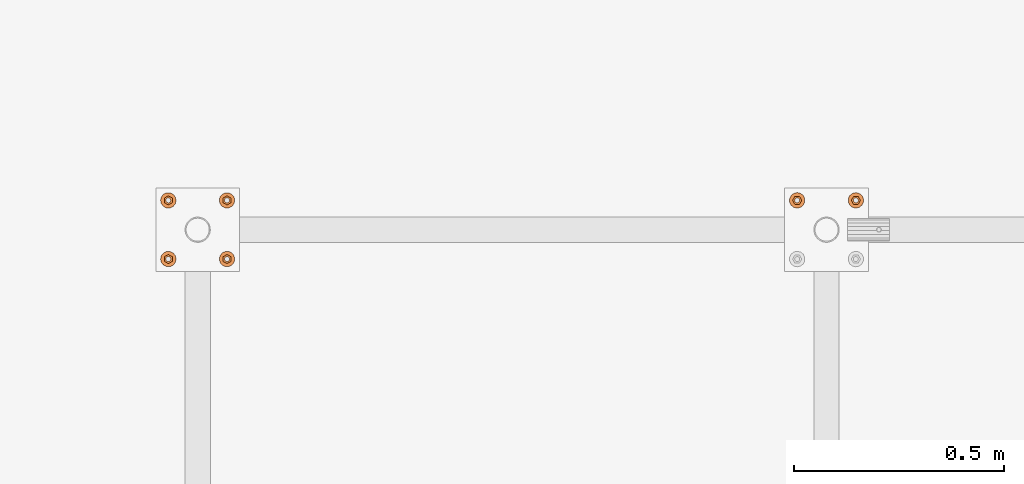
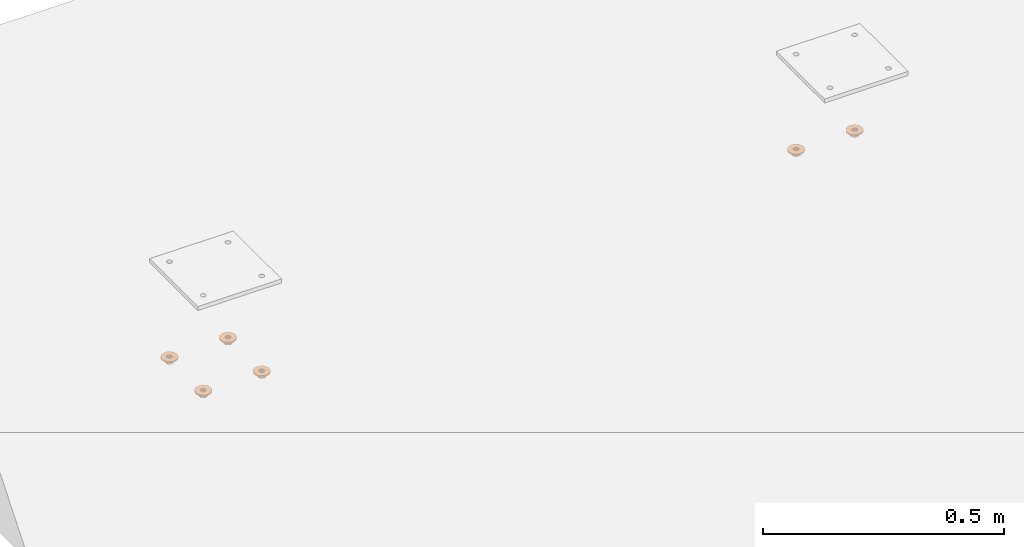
# One storey, part 23 of 30: 12 proxies.
"""IFC2X3 building model written with IfcOpenShell, lengths in millimetres."""

from ifc_helpers import new_model, entity, si_unit, converted_unit, origin_with_axes, place, context, project, spatial, faceted_brep, material, element, save


model = new_model("IFC2X3")

# Units and contexts
model_context = context("Model", 3, precision=1e-09, world=origin_with_axes())
ifc_project = project(units=[si_unit("LENGTHUNIT", "METRE", prefix="MILLI"), si_unit("AREAUNIT", "SQUARE_METRE"), si_unit("VOLUMEUNIT", "CUBIC_METRE"), converted_unit("PLANEANGLEUNIT", "DEGREE", entity("IfcPlaneAngleMeasure", 0.01745329), si_unit("PLANEANGLEUNIT", "RADIAN"), dimensions=[0, 0, 0, 0, 0, 0, 0])], contexts=[model_context])

# Site, building, storey
site_placement = place(None, origin_with_axes())
site = spatial("IfcSite", under=ifc_project, at=site_placement, Name="M?nsinger Stra?e, 81477 M?nchen", CompositionType="ELEMENT")
building_placement = place(site_placement, origin_with_axes())
building = spatial("IfcBuilding", under=site, at=building_placement, Name="Struktur 1", CompositionType="ELEMENT")
storey_placement = place(building_placement, origin_with_axes())
storey = spatial("IfcBuildingStorey", under=building, at=storey_placement, Name="Default Storey", CompositionType="ELEMENT", Elevation=0.0)

# Proxies
ifc_material = material(Name="Kein")
proxy_1_placement = place(None, origin_with_axes())
element("IfcBuildingElementProxy", 1, at=proxy_1_placement, inside=storey, material=ifc_material, ObjectType="-", context=model_context, shape_type="Brep", body=[
    faceted_brep([(1324.780556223, 4546.799376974, 6512.0), (1324.780556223, 4546.799376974, 6515.0), (1319.647193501, 4553.236410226, 6515.0), (1319.647193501, 4553.236410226, 6512.0), (1332.198480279, 4543.227093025, 6515.0), (1340.431754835, 4543.227093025, 6515.0), (1347.849678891, 4546.799376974, 6515.0), (1352.983041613, 4553.236410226, 6515.0), (1354.815117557, 4561.2632594, 6515.0), (1352.983041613, 4569.290108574, 6515.0), (1347.849678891, 4575.727141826, 6515.0), (1340.431754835, 4579.299425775, 6515.0), (1332.198480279, 4579.299425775, 6515.0), (1324.780556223, 4575.727141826, 6515.0), (1319.647193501, 4569.290108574, 6515.0), (1317.815117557, 4561.2632594, 6515.0), (1333.065117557, 4555.634094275, 6515.0), (1330.685952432, 4558.0132594, 6515.0), (1329.815117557, 4561.2632594, 6515.0), (1330.685952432, 4564.5132594, 6515.0), (1333.065117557, 4566.892424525, 6515.0), (1336.315117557, 4567.7632594, 6515.0), (1339.565117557, 4566.892424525, 6515.0), (1341.944282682, 4564.5132594, 6515.0), (1342.815117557, 4561.2632594, 6515.0), (1341.944282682, 4558.0132594, 6515.0), (1339.565117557, 4555.634094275, 6515.0), (1336.315117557, 4554.7632594, 6515.0), (1317.815117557, 4561.2632594, 6512.0), (1319.647193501, 4569.290108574, 6512.0), (1324.780556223, 4575.727141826, 6512.0), (1332.198480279, 4579.299425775, 6512.0), (1340.431754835, 4579.299425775, 6512.0), (1347.849678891, 4575.727141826, 6512.0), (1352.983041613, 4569.290108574, 6512.0), (1354.815117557, 4561.2632594, 6512.0), (1352.983041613, 4553.236410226, 6512.0), (1347.849678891, 4546.799376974, 6512.0), (1340.431754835, 4543.227093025, 6512.0), (1332.198480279, 4543.227093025, 6512.0), (1329.815117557, 4561.2632594, 6512.0), (1330.685952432, 4558.0132594, 6512.0), (1333.065117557, 4555.634094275, 6512.0), (1336.315117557, 4554.7632594, 6512.0), (1339.565117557, 4555.634094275, 6512.0), (1341.944282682, 4558.0132594, 6512.0), (1342.815117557, 4561.2632594, 6512.0), (1341.944282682, 4564.5132594, 6512.0), (1339.565117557, 4566.892424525, 6512.0), (1336.315117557, 4567.7632594, 6512.0), (1333.065117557, 4566.892424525, 6512.0), (1330.685952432, 4564.5132594, 6512.0)], [[[0, 1, 2, 3]], [[4, 5, 6, 7, 8, 9, 10, 11, 12, 13, 14, 15, 2, 1], [16, 17, 18, 19, 20, 21, 22, 23, 24, 25, 26, 27]], [[28, 29, 30, 31, 32, 33, 34, 35, 36, 37, 38, 39, 0, 3], [40, 41, 42, 43, 44, 45, 46, 47, 48, 49, 50, 51]], [[1, 0, 39, 4]], [[41, 17, 16, 42]], [[17, 41, 40, 18]], [[3, 2, 15, 28]], [[4, 39, 38, 5]], [[42, 16, 27, 43]], [[18, 40, 51, 19]], [[28, 15, 14, 29]], [[5, 38, 37, 6]], [[43, 27, 26, 44]], [[19, 51, 50, 20]], [[29, 14, 13, 30]], [[6, 37, 36, 7]], [[44, 26, 25, 45]], [[20, 50, 49, 21]], [[30, 13, 12, 31]], [[7, 36, 35, 8]], [[45, 25, 24, 46]], [[48, 22, 21, 49]], [[31, 12, 11, 32]], [[23, 47, 46, 24]], [[22, 48, 47, 23]], [[8, 35, 34, 9]], [[32, 11, 10, 33]], [[9, 34, 33, 10]]]),
])
proxy_2_placement = place(None, origin_with_axes())
element("IfcBuildingElementProxy", 2, at=proxy_2_placement, inside=storey, material=ifc_material, ObjectType="-", context=model_context, shape_type="Brep", body=[
    faceted_brep([(1330.315117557, 4561.2632594, 6502.0), (1330.315117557, 4561.2632594, 6512.0), (1331.118965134, 4558.2632594, 6512.0), (1331.118965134, 4558.2632594, 6502.0), (1333.315117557, 4556.067106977, 6512.0), (1333.315117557, 4556.067106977, 6502.0), (1331.118965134, 4564.2632594, 6502.0), (1331.118965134, 4564.2632594, 6512.0), (1326.815117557, 4566.748086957, 6512.0), (1326.815117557, 4555.778431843, 6512.0), (1336.315117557, 4550.293604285, 6512.0), (1345.815117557, 4555.778431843, 6512.0), (1345.815117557, 4566.748086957, 6512.0), (1336.315117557, 4572.232914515, 6512.0), (1333.315117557, 4566.459411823, 6512.0), (1336.315117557, 4567.2632594, 6512.0), (1339.315117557, 4566.459411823, 6512.0), (1341.51126998, 4564.2632594, 6512.0), (1342.315117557, 4561.2632594, 6512.0), (1341.51126998, 4558.2632594, 6512.0), (1339.315117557, 4556.067106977, 6512.0), (1336.315117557, 4555.2632594, 6512.0), (1326.815117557, 4566.748086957, 6502.0), (1336.315117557, 4572.232914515, 6502.0), (1345.815117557, 4566.748086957, 6502.0), (1345.815117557, 4555.778431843, 6502.0), (1336.315117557, 4550.293604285, 6502.0), (1326.815117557, 4555.778431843, 6502.0), (1333.315117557, 4566.459411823, 6502.0), (1336.315117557, 4555.2632594, 6502.0), (1336.315117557, 4567.2632594, 6502.0), (1339.315117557, 4556.067106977, 6502.0), (1339.315117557, 4566.459411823, 6502.0), (1341.51126998, 4558.2632594, 6502.0), (1341.51126998, 4564.2632594, 6502.0), (1342.315117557, 4561.2632594, 6502.0)], [[[0, 1, 2, 3]], [[3, 2, 4, 5]], [[1, 0, 6, 7]], [[8, 9, 10, 11, 12, 13], [7, 14, 15, 16, 17, 18, 19, 20, 21, 4, 2, 1]], [[22, 23, 24, 25, 26, 27]], [[7, 6, 28, 14]], [[22, 27, 9, 8]], [[5, 4, 21, 29]], [[10, 9, 27, 26]], [[14, 28, 30, 15]], [[23, 22, 8, 13]], [[29, 21, 20, 31]], [[11, 10, 26, 25]], [[15, 30, 32, 16]], [[24, 23, 13, 12]], [[31, 20, 19, 33]], [[25, 24, 12, 11]], [[16, 32, 34, 17]], [[33, 19, 18, 35]], [[17, 34, 35, 18]]]),
])
proxy_3_placement = place(None, origin_with_axes())
element("IfcBuildingElementProxy", 3, at=proxy_3_placement, inside=storey, material=ifc_material, ObjectType="-", context=model_context, shape_type="Brep", body=[
    faceted_brep([(1470.315117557, 4561.2632594, 6502.0), (1470.315117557, 4561.2632594, 6512.0), (1471.118965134, 4558.2632594, 6512.0), (1471.118965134, 4558.2632594, 6502.0), (1473.315117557, 4556.067106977, 6512.0), (1473.315117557, 4556.067106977, 6502.0), (1471.118965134, 4564.2632594, 6502.0), (1471.118965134, 4564.2632594, 6512.0), (1466.815117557, 4566.748086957, 6512.0), (1466.815117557, 4555.778431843, 6512.0), (1476.315117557, 4550.293604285, 6512.0), (1485.815117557, 4555.778431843, 6512.0), (1485.815117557, 4566.748086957, 6512.0), (1476.315117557, 4572.232914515, 6512.0), (1473.315117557, 4566.459411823, 6512.0), (1476.315117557, 4567.2632594, 6512.0), (1479.315117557, 4566.459411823, 6512.0), (1481.51126998, 4564.2632594, 6512.0), (1482.315117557, 4561.2632594, 6512.0), (1481.51126998, 4558.2632594, 6512.0), (1479.315117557, 4556.067106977, 6512.0), (1476.315117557, 4555.2632594, 6512.0), (1466.815117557, 4566.748086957, 6502.0), (1476.315117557, 4572.232914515, 6502.0), (1485.815117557, 4566.748086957, 6502.0), (1485.815117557, 4555.778431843, 6502.0), (1476.315117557, 4550.293604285, 6502.0), (1466.815117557, 4555.778431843, 6502.0), (1473.315117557, 4566.459411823, 6502.0), (1476.315117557, 4555.2632594, 6502.0), (1476.315117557, 4567.2632594, 6502.0), (1479.315117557, 4556.067106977, 6502.0), (1479.315117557, 4566.459411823, 6502.0), (1481.51126998, 4558.2632594, 6502.0), (1481.51126998, 4564.2632594, 6502.0), (1482.315117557, 4561.2632594, 6502.0)], [[[0, 1, 2, 3]], [[3, 2, 4, 5]], [[1, 0, 6, 7]], [[8, 9, 10, 11, 12, 13], [7, 14, 15, 16, 17, 18, 19, 20, 21, 4, 2, 1]], [[22, 23, 24, 25, 26, 27]], [[7, 6, 28, 14]], [[22, 27, 9, 8]], [[5, 4, 21, 29]], [[10, 9, 27, 26]], [[14, 28, 30, 15]], [[23, 22, 8, 13]], [[29, 21, 20, 31]], [[11, 10, 26, 25]], [[15, 30, 32, 16]], [[24, 23, 13, 12]], [[31, 20, 19, 33]], [[25, 24, 12, 11]], [[16, 32, 34, 17]], [[33, 19, 18, 35]], [[17, 34, 35, 18]]]),
])
proxy_4_placement = place(None, origin_with_axes())
element("IfcBuildingElementProxy", 4, at=proxy_4_placement, inside=storey, material=ifc_material, ObjectType="-", context=model_context, shape_type="Brep", body=[
    faceted_brep([(1464.780556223, 4546.799376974, 6512.0), (1464.780556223, 4546.799376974, 6515.0), (1459.647193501, 4553.236410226, 6515.0), (1459.647193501, 4553.236410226, 6512.0), (1472.198480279, 4543.227093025, 6515.0), (1480.431754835, 4543.227093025, 6515.0), (1487.849678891, 4546.799376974, 6515.0), (1492.983041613, 4553.236410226, 6515.0), (1494.815117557, 4561.2632594, 6515.0), (1492.983041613, 4569.290108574, 6515.0), (1487.849678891, 4575.727141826, 6515.0), (1480.431754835, 4579.299425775, 6515.0), (1472.198480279, 4579.299425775, 6515.0), (1464.780556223, 4575.727141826, 6515.0), (1459.647193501, 4569.290108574, 6515.0), (1457.815117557, 4561.2632594, 6515.0), (1473.065117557, 4555.634094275, 6515.0), (1470.685952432, 4558.0132594, 6515.0), (1469.815117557, 4561.2632594, 6515.0), (1470.685952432, 4564.5132594, 6515.0), (1473.065117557, 4566.892424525, 6515.0), (1476.315117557, 4567.7632594, 6515.0), (1479.565117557, 4566.892424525, 6515.0), (1481.944282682, 4564.5132594, 6515.0), (1482.815117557, 4561.2632594, 6515.0), (1481.944282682, 4558.0132594, 6515.0), (1479.565117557, 4555.634094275, 6515.0), (1476.315117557, 4554.7632594, 6515.0), (1457.815117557, 4561.2632594, 6512.0), (1459.647193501, 4569.290108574, 6512.0), (1464.780556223, 4575.727141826, 6512.0), (1472.198480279, 4579.299425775, 6512.0), (1480.431754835, 4579.299425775, 6512.0), (1487.849678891, 4575.727141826, 6512.0), (1492.983041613, 4569.290108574, 6512.0), (1494.815117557, 4561.2632594, 6512.0), (1492.983041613, 4553.236410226, 6512.0), (1487.849678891, 4546.799376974, 6512.0), (1480.431754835, 4543.227093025, 6512.0), (1472.198480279, 4543.227093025, 6512.0), (1469.815117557, 4561.2632594, 6512.0), (1470.685952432, 4558.0132594, 6512.0), (1473.065117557, 4555.634094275, 6512.0), (1476.315117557, 4554.7632594, 6512.0), (1479.565117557, 4555.634094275, 6512.0), (1481.944282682, 4558.0132594, 6512.0), (1482.815117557, 4561.2632594, 6512.0), (1481.944282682, 4564.5132594, 6512.0), (1479.565117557, 4566.892424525, 6512.0), (1476.315117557, 4567.7632594, 6512.0), (1473.065117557, 4566.892424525, 6512.0), (1470.685952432, 4564.5132594, 6512.0)], [[[0, 1, 2, 3]], [[4, 5, 6, 7, 8, 9, 10, 11, 12, 13, 14, 15, 2, 1], [16, 17, 18, 19, 20, 21, 22, 23, 24, 25, 26, 27]], [[28, 29, 30, 31, 32, 33, 34, 35, 36, 37, 38, 39, 0, 3], [40, 41, 42, 43, 44, 45, 46, 47, 48, 49, 50, 51]], [[1, 0, 39, 4]], [[41, 17, 16, 42]], [[17, 41, 40, 18]], [[3, 2, 15, 28]], [[4, 39, 38, 5]], [[42, 16, 27, 43]], [[18, 40, 51, 19]], [[28, 15, 14, 29]], [[5, 38, 37, 6]], [[43, 27, 26, 44]], [[19, 51, 50, 20]], [[29, 14, 13, 30]], [[6, 37, 36, 7]], [[44, 26, 25, 45]], [[20, 50, 49, 21]], [[30, 13, 12, 31]], [[7, 36, 35, 8]], [[45, 25, 24, 46]], [[48, 22, 21, 49]], [[31, 12, 11, 32]], [[23, 47, 46, 24]], [[22, 48, 47, 23]], [[8, 35, 34, 9]], [[32, 11, 10, 33]], [[9, 34, 33, 10]]]),
])
proxy_5_placement = place(None, origin_with_axes())
element("IfcBuildingElementProxy", 5, at=proxy_5_placement, inside=storey, material=ifc_material, ObjectType="-", context=model_context, shape_type="Brep", body=[
    faceted_brep([(1464.780556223, 4406.799376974, 6512.0), (1464.780556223, 4406.799376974, 6515.0), (1459.647193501, 4413.236410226, 6515.0), (1459.647193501, 4413.236410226, 6512.0), (1472.198480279, 4403.227093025, 6515.0), (1480.431754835, 4403.227093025, 6515.0), (1487.849678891, 4406.799376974, 6515.0), (1492.983041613, 4413.236410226, 6515.0), (1494.815117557, 4421.2632594, 6515.0), (1492.983041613, 4429.290108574, 6515.0), (1487.849678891, 4435.727141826, 6515.0), (1480.431754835, 4439.299425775, 6515.0), (1472.198480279, 4439.299425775, 6515.0), (1464.780556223, 4435.727141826, 6515.0), (1459.647193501, 4429.290108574, 6515.0), (1457.815117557, 4421.2632594, 6515.0), (1473.065117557, 4415.634094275, 6515.0), (1470.685952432, 4418.0132594, 6515.0), (1469.815117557, 4421.2632594, 6515.0), (1470.685952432, 4424.5132594, 6515.0), (1473.065117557, 4426.892424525, 6515.0), (1476.315117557, 4427.7632594, 6515.0), (1479.565117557, 4426.892424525, 6515.0), (1481.944282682, 4424.5132594, 6515.0), (1482.815117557, 4421.2632594, 6515.0), (1481.944282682, 4418.0132594, 6515.0), (1479.565117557, 4415.634094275, 6515.0), (1476.315117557, 4414.7632594, 6515.0), (1457.815117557, 4421.2632594, 6512.0), (1459.647193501, 4429.290108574, 6512.0), (1464.780556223, 4435.727141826, 6512.0), (1472.198480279, 4439.299425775, 6512.0), (1480.431754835, 4439.299425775, 6512.0), (1487.849678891, 4435.727141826, 6512.0), (1492.983041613, 4429.290108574, 6512.0), (1494.815117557, 4421.2632594, 6512.0), (1492.983041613, 4413.236410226, 6512.0), (1487.849678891, 4406.799376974, 6512.0), (1480.431754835, 4403.227093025, 6512.0), (1472.198480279, 4403.227093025, 6512.0), (1469.815117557, 4421.2632594, 6512.0), (1470.685952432, 4418.0132594, 6512.0), (1473.065117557, 4415.634094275, 6512.0), (1476.315117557, 4414.7632594, 6512.0), (1479.565117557, 4415.634094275, 6512.0), (1481.944282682, 4418.0132594, 6512.0), (1482.815117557, 4421.2632594, 6512.0), (1481.944282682, 4424.5132594, 6512.0), (1479.565117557, 4426.892424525, 6512.0), (1476.315117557, 4427.7632594, 6512.0), (1473.065117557, 4426.892424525, 6512.0), (1470.685952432, 4424.5132594, 6512.0)], [[[0, 1, 2, 3]], [[4, 5, 6, 7, 8, 9, 10, 11, 12, 13, 14, 15, 2, 1], [16, 17, 18, 19, 20, 21, 22, 23, 24, 25, 26, 27]], [[28, 29, 30, 31, 32, 33, 34, 35, 36, 37, 38, 39, 0, 3], [40, 41, 42, 43, 44, 45, 46, 47, 48, 49, 50, 51]], [[1, 0, 39, 4]], [[41, 17, 16, 42]], [[17, 41, 40, 18]], [[3, 2, 15, 28]], [[4, 39, 38, 5]], [[42, 16, 27, 43]], [[18, 40, 51, 19]], [[28, 15, 14, 29]], [[5, 38, 37, 6]], [[43, 27, 26, 44]], [[19, 51, 50, 20]], [[29, 14, 13, 30]], [[6, 37, 36, 7]], [[44, 26, 25, 45]], [[20, 50, 49, 21]], [[30, 13, 12, 31]], [[7, 36, 35, 8]], [[45, 25, 24, 46]], [[48, 22, 21, 49]], [[31, 12, 11, 32]], [[23, 47, 46, 24]], [[22, 48, 47, 23]], [[8, 35, 34, 9]], [[32, 11, 10, 33]], [[9, 34, 33, 10]]]),
])
proxy_6_placement = place(None, origin_with_axes())
element("IfcBuildingElementProxy", 6, at=proxy_6_placement, inside=storey, material=ifc_material, ObjectType="-", context=model_context, shape_type="Brep", body=[
    faceted_brep([(1470.315117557, 4421.2632594, 6502.0), (1470.315117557, 4421.2632594, 6512.0), (1471.118965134, 4418.2632594, 6512.0), (1471.118965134, 4418.2632594, 6502.0), (1473.315117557, 4416.067106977, 6512.0), (1473.315117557, 4416.067106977, 6502.0), (1471.118965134, 4424.2632594, 6502.0), (1471.118965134, 4424.2632594, 6512.0), (1466.815117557, 4426.748086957, 6512.0), (1466.815117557, 4415.778431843, 6512.0), (1476.315117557, 4410.293604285, 6512.0), (1485.815117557, 4415.778431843, 6512.0), (1485.815117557, 4426.748086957, 6512.0), (1476.315117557, 4432.232914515, 6512.0), (1473.315117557, 4426.459411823, 6512.0), (1476.315117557, 4427.2632594, 6512.0), (1479.315117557, 4426.459411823, 6512.0), (1481.51126998, 4424.2632594, 6512.0), (1482.315117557, 4421.2632594, 6512.0), (1481.51126998, 4418.2632594, 6512.0), (1479.315117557, 4416.067106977, 6512.0), (1476.315117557, 4415.2632594, 6512.0), (1466.815117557, 4426.748086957, 6502.0), (1476.315117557, 4432.232914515, 6502.0), (1485.815117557, 4426.748086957, 6502.0), (1485.815117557, 4415.778431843, 6502.0), (1476.315117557, 4410.293604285, 6502.0), (1466.815117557, 4415.778431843, 6502.0), (1473.315117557, 4426.459411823, 6502.0), (1476.315117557, 4415.2632594, 6502.0), (1476.315117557, 4427.2632594, 6502.0), (1479.315117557, 4416.067106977, 6502.0), (1479.315117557, 4426.459411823, 6502.0), (1481.51126998, 4418.2632594, 6502.0), (1481.51126998, 4424.2632594, 6502.0), (1482.315117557, 4421.2632594, 6502.0)], [[[0, 1, 2, 3]], [[3, 2, 4, 5]], [[1, 0, 6, 7]], [[8, 9, 10, 11, 12, 13], [7, 14, 15, 16, 17, 18, 19, 20, 21, 4, 2, 1]], [[22, 23, 24, 25, 26, 27]], [[7, 6, 28, 14]], [[22, 27, 9, 8]], [[5, 4, 21, 29]], [[10, 9, 27, 26]], [[14, 28, 30, 15]], [[23, 22, 8, 13]], [[29, 21, 20, 31]], [[11, 10, 26, 25]], [[15, 30, 32, 16]], [[24, 23, 13, 12]], [[31, 20, 19, 33]], [[25, 24, 12, 11]], [[16, 32, 34, 17]], [[33, 19, 18, 35]], [[17, 34, 35, 18]]]),
])
proxy_7_placement = place(None, origin_with_axes())
element("IfcBuildingElementProxy", 7, at=proxy_7_placement, inside=storey, material=ifc_material, ObjectType="-", context=model_context, shape_type="Brep", body=[
    faceted_brep([(1330.315117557, 4421.2632594, 6502.0), (1330.315117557, 4421.2632594, 6512.0), (1331.118965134, 4418.2632594, 6512.0), (1331.118965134, 4418.2632594, 6502.0), (1333.315117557, 4416.067106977, 6512.0), (1333.315117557, 4416.067106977, 6502.0), (1331.118965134, 4424.2632594, 6502.0), (1331.118965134, 4424.2632594, 6512.0), (1326.815117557, 4426.748086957, 6512.0), (1326.815117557, 4415.778431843, 6512.0), (1336.315117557, 4410.293604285, 6512.0), (1345.815117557, 4415.778431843, 6512.0), (1345.815117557, 4426.748086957, 6512.0), (1336.315117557, 4432.232914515, 6512.0), (1333.315117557, 4426.459411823, 6512.0), (1336.315117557, 4427.2632594, 6512.0), (1339.315117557, 4426.459411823, 6512.0), (1341.51126998, 4424.2632594, 6512.0), (1342.315117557, 4421.2632594, 6512.0), (1341.51126998, 4418.2632594, 6512.0), (1339.315117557, 4416.067106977, 6512.0), (1336.315117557, 4415.2632594, 6512.0), (1326.815117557, 4426.748086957, 6502.0), (1336.315117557, 4432.232914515, 6502.0), (1345.815117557, 4426.748086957, 6502.0), (1345.815117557, 4415.778431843, 6502.0), (1336.315117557, 4410.293604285, 6502.0), (1326.815117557, 4415.778431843, 6502.0), (1333.315117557, 4426.459411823, 6502.0), (1336.315117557, 4415.2632594, 6502.0), (1336.315117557, 4427.2632594, 6502.0), (1339.315117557, 4416.067106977, 6502.0), (1339.315117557, 4426.459411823, 6502.0), (1341.51126998, 4418.2632594, 6502.0), (1341.51126998, 4424.2632594, 6502.0), (1342.315117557, 4421.2632594, 6502.0)], [[[0, 1, 2, 3]], [[3, 2, 4, 5]], [[1, 0, 6, 7]], [[8, 9, 10, 11, 12, 13], [7, 14, 15, 16, 17, 18, 19, 20, 21, 4, 2, 1]], [[22, 23, 24, 25, 26, 27]], [[7, 6, 28, 14]], [[22, 27, 9, 8]], [[5, 4, 21, 29]], [[10, 9, 27, 26]], [[14, 28, 30, 15]], [[23, 22, 8, 13]], [[29, 21, 20, 31]], [[11, 10, 26, 25]], [[15, 30, 32, 16]], [[24, 23, 13, 12]], [[31, 20, 19, 33]], [[25, 24, 12, 11]], [[16, 32, 34, 17]], [[33, 19, 18, 35]], [[17, 34, 35, 18]]]),
])
proxy_8_placement = place(None, origin_with_axes())
element("IfcBuildingElementProxy", 8, at=proxy_8_placement, inside=storey, material=ifc_material, ObjectType="-", context=model_context, shape_type="Brep", body=[
    faceted_brep([(1324.780556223, 4406.799376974, 6512.0), (1324.780556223, 4406.799376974, 6515.0), (1319.647193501, 4413.236410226, 6515.0), (1319.647193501, 4413.236410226, 6512.0), (1332.198480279, 4403.227093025, 6515.0), (1340.431754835, 4403.227093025, 6515.0), (1347.849678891, 4406.799376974, 6515.0), (1352.983041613, 4413.236410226, 6515.0), (1354.815117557, 4421.2632594, 6515.0), (1352.983041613, 4429.290108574, 6515.0), (1347.849678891, 4435.727141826, 6515.0), (1340.431754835, 4439.299425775, 6515.0), (1332.198480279, 4439.299425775, 6515.0), (1324.780556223, 4435.727141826, 6515.0), (1319.647193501, 4429.290108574, 6515.0), (1317.815117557, 4421.2632594, 6515.0), (1333.065117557, 4415.634094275, 6515.0), (1330.685952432, 4418.0132594, 6515.0), (1329.815117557, 4421.2632594, 6515.0), (1330.685952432, 4424.5132594, 6515.0), (1333.065117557, 4426.892424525, 6515.0), (1336.315117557, 4427.7632594, 6515.0), (1339.565117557, 4426.892424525, 6515.0), (1341.944282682, 4424.5132594, 6515.0), (1342.815117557, 4421.2632594, 6515.0), (1341.944282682, 4418.0132594, 6515.0), (1339.565117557, 4415.634094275, 6515.0), (1336.315117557, 4414.7632594, 6515.0), (1317.815117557, 4421.2632594, 6512.0), (1319.647193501, 4429.290108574, 6512.0), (1324.780556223, 4435.727141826, 6512.0), (1332.198480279, 4439.299425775, 6512.0), (1340.431754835, 4439.299425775, 6512.0), (1347.849678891, 4435.727141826, 6512.0), (1352.983041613, 4429.290108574, 6512.0), (1354.815117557, 4421.2632594, 6512.0), (1352.983041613, 4413.236410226, 6512.0), (1347.849678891, 4406.799376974, 6512.0), (1340.431754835, 4403.227093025, 6512.0), (1332.198480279, 4403.227093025, 6512.0), (1329.815117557, 4421.2632594, 6512.0), (1330.685952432, 4418.0132594, 6512.0), (1333.065117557, 4415.634094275, 6512.0), (1336.315117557, 4414.7632594, 6512.0), (1339.565117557, 4415.634094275, 6512.0), (1341.944282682, 4418.0132594, 6512.0), (1342.815117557, 4421.2632594, 6512.0), (1341.944282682, 4424.5132594, 6512.0), (1339.565117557, 4426.892424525, 6512.0), (1336.315117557, 4427.7632594, 6512.0), (1333.065117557, 4426.892424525, 6512.0), (1330.685952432, 4424.5132594, 6512.0)], [[[0, 1, 2, 3]], [[4, 5, 6, 7, 8, 9, 10, 11, 12, 13, 14, 15, 2, 1], [16, 17, 18, 19, 20, 21, 22, 23, 24, 25, 26, 27]], [[28, 29, 30, 31, 32, 33, 34, 35, 36, 37, 38, 39, 0, 3], [40, 41, 42, 43, 44, 45, 46, 47, 48, 49, 50, 51]], [[1, 0, 39, 4]], [[41, 17, 16, 42]], [[17, 41, 40, 18]], [[3, 2, 15, 28]], [[4, 39, 38, 5]], [[42, 16, 27, 43]], [[18, 40, 51, 19]], [[28, 15, 14, 29]], [[5, 38, 37, 6]], [[43, 27, 26, 44]], [[19, 51, 50, 20]], [[29, 14, 13, 30]], [[6, 37, 36, 7]], [[44, 26, 25, 45]], [[20, 50, 49, 21]], [[30, 13, 12, 31]], [[7, 36, 35, 8]], [[45, 25, 24, 46]], [[48, 22, 21, 49]], [[31, 12, 11, 32]], [[23, 47, 46, 24]], [[22, 48, 47, 23]], [[8, 35, 34, 9]], [[32, 11, 10, 33]], [[9, 34, 33, 10]]]),
])
proxy_9_placement = place(None, origin_with_axes())
element("IfcBuildingElementProxy", 9, at=proxy_9_placement, inside=storey, material=ifc_material, ObjectType="-", context=model_context, shape_type="Brep", body=[
    faceted_brep([(2976.315117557, 4567.2632594, 6512.0), (2976.315117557, 4567.2632594, 6502.0), (2979.315117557, 4566.459411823, 6502.0), (2979.315117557, 4566.459411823, 6512.0), (2981.51126998, 4564.2632594, 6502.0), (2981.51126998, 4564.2632594, 6512.0), (2973.315117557, 4566.459411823, 6512.0), (2973.315117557, 4566.459411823, 6502.0), (2970.83029, 4570.7632594, 6512.0), (2965.345462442, 4561.2632594, 6512.0), (2970.83029, 4551.7632594, 6512.0), (2981.799945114, 4551.7632594, 6512.0), (2987.284772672, 4561.2632594, 6512.0), (2981.799945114, 4570.7632594, 6512.0), (2971.118965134, 4564.2632594, 6512.0), (2982.315117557, 4561.2632594, 6512.0), (2981.51126998, 4558.2632594, 6512.0), (2979.315117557, 4556.067106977, 6512.0), (2976.315117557, 4555.2632594, 6512.0), (2973.315117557, 4556.067106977, 6512.0), (2971.118965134, 4558.2632594, 6512.0), (2970.315117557, 4561.2632594, 6512.0), (2965.345462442, 4561.2632594, 6502.0), (2970.83029, 4570.7632594, 6502.0), (2981.799945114, 4570.7632594, 6502.0), (2987.284772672, 4561.2632594, 6502.0), (2981.799945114, 4551.7632594, 6502.0), (2970.83029, 4551.7632594, 6502.0), (2971.118965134, 4564.2632594, 6502.0), (2970.315117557, 4561.2632594, 6502.0), (2971.118965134, 4558.2632594, 6502.0), (2973.315117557, 4556.067106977, 6502.0), (2976.315117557, 4555.2632594, 6502.0), (2979.315117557, 4556.067106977, 6502.0), (2981.51126998, 4558.2632594, 6502.0), (2982.315117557, 4561.2632594, 6502.0)], [[[0, 1, 2, 3]], [[3, 2, 4, 5]], [[1, 0, 6, 7]], [[8, 9, 10, 11, 12, 13], [14, 6, 0, 3, 5, 15, 16, 17, 18, 19, 20, 21]], [[22, 23, 24, 25, 26, 27], [1, 7, 28, 29, 30, 31, 32, 33, 34, 35, 4, 2]], [[7, 6, 14, 28]], [[24, 23, 8, 13]], [[5, 4, 35, 15]], [[13, 12, 25, 24]], [[28, 14, 21, 29]], [[23, 22, 9, 8]], [[15, 35, 34, 16]], [[12, 11, 26, 25]], [[29, 21, 20, 30]], [[22, 27, 10, 9]], [[16, 34, 33, 17]], [[27, 26, 11, 10]], [[30, 20, 19, 31]], [[17, 33, 32, 18]], [[31, 19, 18, 32]]]),
])
proxy_10_placement = place(None, origin_with_axes())
element("IfcBuildingElementProxy", 10, at=proxy_10_placement, inside=storey, material=ifc_material, ObjectType="-", context=model_context, shape_type="Brep", body=[
    faceted_brep([(2990.778999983, 4572.797820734, 6515.0), (2990.778999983, 4572.797820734, 6512.0), (2984.341966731, 4577.931183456, 6512.0), (2984.341966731, 4577.931183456, 6515.0), (2994.351283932, 4557.146622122, 6515.0), (2994.351283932, 4565.379896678, 6515.0), (2976.315117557, 4579.7632594, 6515.0), (2968.288268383, 4577.931183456, 6515.0), (2961.851235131, 4572.797820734, 6515.0), (2958.278951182, 4565.379896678, 6515.0), (2958.278951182, 4557.146622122, 6515.0), (2961.851235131, 4549.728698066, 6515.0), (2968.288268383, 4544.595335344, 6515.0), (2976.315117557, 4542.7632594, 6515.0), (2984.341966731, 4544.595335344, 6515.0), (2990.778999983, 4549.728698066, 6515.0), (2981.944282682, 4564.5132594, 6515.0), (2982.815117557, 4561.2632594, 6515.0), (2981.944282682, 4558.0132594, 6515.0), (2979.565117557, 4555.634094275, 6515.0), (2976.315117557, 4554.7632594, 6515.0), (2973.065117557, 4555.634094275, 6515.0), (2970.685952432, 4558.0132594, 6515.0), (2969.815117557, 4561.2632594, 6515.0), (2970.685952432, 4564.5132594, 6515.0), (2973.065117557, 4566.892424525, 6515.0), (2976.315117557, 4567.7632594, 6515.0), (2979.565117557, 4566.892424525, 6515.0), (2968.288268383, 4577.931183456, 6512.0), (2976.315117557, 4579.7632594, 6512.0), (2994.351283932, 4565.379896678, 6512.0), (2994.351283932, 4557.146622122, 6512.0), (2990.778999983, 4549.728698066, 6512.0), (2984.341966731, 4544.595335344, 6512.0), (2976.315117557, 4542.7632594, 6512.0), (2968.288268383, 4544.595335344, 6512.0), (2961.851235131, 4549.728698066, 6512.0), (2958.278951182, 4557.146622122, 6512.0), (2958.278951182, 4565.379896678, 6512.0), (2961.851235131, 4572.797820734, 6512.0), (2976.315117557, 4567.7632594, 6512.0), (2973.065117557, 4566.892424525, 6512.0), (2970.685952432, 4564.5132594, 6512.0), (2969.815117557, 4561.2632594, 6512.0), (2970.685952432, 4558.0132594, 6512.0), (2973.065117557, 4555.634094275, 6512.0), (2976.315117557, 4554.7632594, 6512.0), (2979.565117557, 4555.634094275, 6512.0), (2981.944282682, 4558.0132594, 6512.0), (2982.815117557, 4561.2632594, 6512.0), (2981.944282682, 4564.5132594, 6512.0), (2979.565117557, 4566.892424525, 6512.0)], [[[0, 1, 2, 3]], [[4, 5, 0, 3, 6, 7, 8, 9, 10, 11, 12, 13, 14, 15], [16, 17, 18, 19, 20, 21, 22, 23, 24, 25, 26, 27]], [[28, 29, 2, 1, 30, 31, 32, 33, 34, 35, 36, 37, 38, 39], [40, 41, 42, 43, 44, 45, 46, 47, 48, 49, 50, 51]], [[1, 0, 5, 30]], [[27, 51, 50, 16]], [[51, 27, 26, 40]], [[3, 2, 29, 6]], [[30, 5, 4, 31]], [[16, 50, 49, 17]], [[40, 26, 25, 41]], [[6, 29, 28, 7]], [[31, 4, 15, 32]], [[17, 49, 48, 18]], [[41, 25, 24, 42]], [[7, 28, 39, 8]], [[32, 15, 14, 33]], [[18, 48, 47, 19]], [[42, 24, 23, 43]], [[8, 39, 38, 9]], [[33, 14, 13, 34]], [[19, 47, 46, 20]], [[22, 44, 43, 23]], [[9, 38, 37, 10]], [[45, 21, 20, 46]], [[44, 22, 21, 45]], [[34, 13, 12, 35]], [[10, 37, 36, 11]], [[35, 12, 11, 36]]]),
])
proxy_11_placement = place(None, origin_with_axes())
element("IfcBuildingElementProxy", 11, at=proxy_11_placement, inside=storey, material=ifc_material, ObjectType="-", context=model_context, shape_type="Brep", body=[
    faceted_brep([(2850.778999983, 4572.797820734, 6515.0), (2850.778999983, 4572.797820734, 6512.0), (2844.341966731, 4577.931183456, 6512.0), (2844.341966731, 4577.931183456, 6515.0), (2854.351283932, 4557.146622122, 6515.0), (2854.351283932, 4565.379896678, 6515.0), (2836.315117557, 4579.7632594, 6515.0), (2828.288268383, 4577.931183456, 6515.0), (2821.851235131, 4572.797820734, 6515.0), (2818.278951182, 4565.379896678, 6515.0), (2818.278951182, 4557.146622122, 6515.0), (2821.851235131, 4549.728698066, 6515.0), (2828.288268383, 4544.595335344, 6515.0), (2836.315117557, 4542.7632594, 6515.0), (2844.341966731, 4544.595335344, 6515.0), (2850.778999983, 4549.728698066, 6515.0), (2841.944282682, 4564.5132594, 6515.0), (2842.815117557, 4561.2632594, 6515.0), (2841.944282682, 4558.0132594, 6515.0), (2839.565117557, 4555.634094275, 6515.0), (2836.315117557, 4554.7632594, 6515.0), (2833.065117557, 4555.634094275, 6515.0), (2830.685952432, 4558.0132594, 6515.0), (2829.815117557, 4561.2632594, 6515.0), (2830.685952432, 4564.5132594, 6515.0), (2833.065117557, 4566.892424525, 6515.0), (2836.315117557, 4567.7632594, 6515.0), (2839.565117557, 4566.892424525, 6515.0), (2828.288268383, 4577.931183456, 6512.0), (2836.315117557, 4579.7632594, 6512.0), (2854.351283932, 4565.379896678, 6512.0), (2854.351283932, 4557.146622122, 6512.0), (2850.778999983, 4549.728698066, 6512.0), (2844.341966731, 4544.595335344, 6512.0), (2836.315117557, 4542.7632594, 6512.0), (2828.288268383, 4544.595335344, 6512.0), (2821.851235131, 4549.728698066, 6512.0), (2818.278951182, 4557.146622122, 6512.0), (2818.278951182, 4565.379896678, 6512.0), (2821.851235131, 4572.797820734, 6512.0), (2836.315117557, 4567.7632594, 6512.0), (2833.065117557, 4566.892424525, 6512.0), (2830.685952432, 4564.5132594, 6512.0), (2829.815117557, 4561.2632594, 6512.0), (2830.685952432, 4558.0132594, 6512.0), (2833.065117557, 4555.634094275, 6512.0), (2836.315117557, 4554.7632594, 6512.0), (2839.565117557, 4555.634094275, 6512.0), (2841.944282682, 4558.0132594, 6512.0), (2842.815117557, 4561.2632594, 6512.0), (2841.944282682, 4564.5132594, 6512.0), (2839.565117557, 4566.892424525, 6512.0)], [[[0, 1, 2, 3]], [[4, 5, 0, 3, 6, 7, 8, 9, 10, 11, 12, 13, 14, 15], [16, 17, 18, 19, 20, 21, 22, 23, 24, 25, 26, 27]], [[28, 29, 2, 1, 30, 31, 32, 33, 34, 35, 36, 37, 38, 39], [40, 41, 42, 43, 44, 45, 46, 47, 48, 49, 50, 51]], [[1, 0, 5, 30]], [[27, 51, 50, 16]], [[51, 27, 26, 40]], [[3, 2, 29, 6]], [[30, 5, 4, 31]], [[16, 50, 49, 17]], [[40, 26, 25, 41]], [[6, 29, 28, 7]], [[31, 4, 15, 32]], [[17, 49, 48, 18]], [[41, 25, 24, 42]], [[7, 28, 39, 8]], [[32, 15, 14, 33]], [[18, 48, 47, 19]], [[42, 24, 23, 43]], [[8, 39, 38, 9]], [[33, 14, 13, 34]], [[19, 47, 46, 20]], [[22, 44, 43, 23]], [[9, 38, 37, 10]], [[45, 21, 20, 46]], [[44, 22, 21, 45]], [[34, 13, 12, 35]], [[10, 37, 36, 11]], [[35, 12, 11, 36]]]),
])
proxy_12_placement = place(None, origin_with_axes())
element("IfcBuildingElementProxy", 12, at=proxy_12_placement, inside=storey, material=ifc_material, ObjectType="-", context=model_context, shape_type="Brep", body=[
    faceted_brep([(2836.315117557, 4567.2632594, 6512.0), (2836.315117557, 4567.2632594, 6502.0), (2839.315117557, 4566.459411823, 6502.0), (2839.315117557, 4566.459411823, 6512.0), (2841.51126998, 4564.2632594, 6502.0), (2841.51126998, 4564.2632594, 6512.0), (2833.315117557, 4566.459411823, 6512.0), (2833.315117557, 4566.459411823, 6502.0), (2830.83029, 4570.7632594, 6512.0), (2825.345462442, 4561.2632594, 6512.0), (2830.83029, 4551.7632594, 6512.0), (2841.799945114, 4551.7632594, 6512.0), (2847.284772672, 4561.2632594, 6512.0), (2841.799945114, 4570.7632594, 6512.0), (2831.118965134, 4564.2632594, 6512.0), (2842.315117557, 4561.2632594, 6512.0), (2841.51126998, 4558.2632594, 6512.0), (2839.315117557, 4556.067106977, 6512.0), (2836.315117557, 4555.2632594, 6512.0), (2833.315117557, 4556.067106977, 6512.0), (2831.118965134, 4558.2632594, 6512.0), (2830.315117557, 4561.2632594, 6512.0), (2825.345462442, 4561.2632594, 6502.0), (2830.83029, 4570.7632594, 6502.0), (2841.799945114, 4570.7632594, 6502.0), (2847.284772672, 4561.2632594, 6502.0), (2841.799945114, 4551.7632594, 6502.0), (2830.83029, 4551.7632594, 6502.0), (2831.118965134, 4564.2632594, 6502.0), (2830.315117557, 4561.2632594, 6502.0), (2831.118965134, 4558.2632594, 6502.0), (2833.315117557, 4556.067106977, 6502.0), (2836.315117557, 4555.2632594, 6502.0), (2839.315117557, 4556.067106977, 6502.0), (2841.51126998, 4558.2632594, 6502.0), (2842.315117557, 4561.2632594, 6502.0)], [[[0, 1, 2, 3]], [[3, 2, 4, 5]], [[1, 0, 6, 7]], [[8, 9, 10, 11, 12, 13], [14, 6, 0, 3, 5, 15, 16, 17, 18, 19, 20, 21]], [[22, 23, 24, 25, 26, 27], [1, 7, 28, 29, 30, 31, 32, 33, 34, 35, 4, 2]], [[7, 6, 14, 28]], [[24, 23, 8, 13]], [[5, 4, 35, 15]], [[13, 12, 25, 24]], [[28, 14, 21, 29]], [[23, 22, 9, 8]], [[15, 35, 34, 16]], [[12, 11, 26, 25]], [[29, 21, 20, 30]], [[22, 27, 10, 9]], [[16, 34, 33, 17]], [[27, 26, 11, 10]], [[30, 20, 19, 31]], [[17, 33, 32, 18]], [[31, 19, 18, 32]]]),
])

save(model, "model.ifc")
